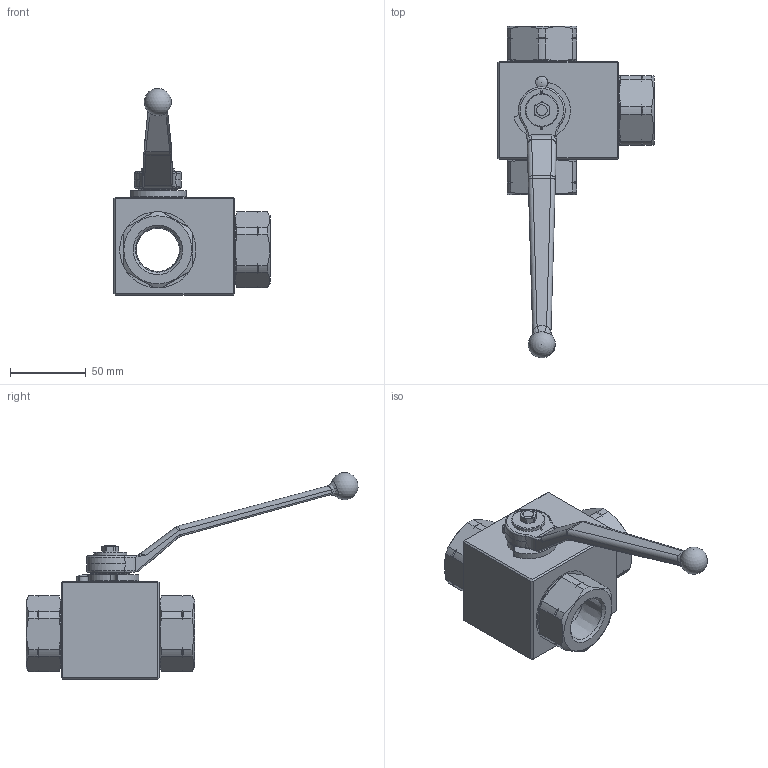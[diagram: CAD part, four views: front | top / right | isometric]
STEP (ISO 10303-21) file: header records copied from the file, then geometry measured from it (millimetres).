
FILE_DESCRIPTION( ( 'Unknown' ), '1' );
FILE_NAME( 'H:/PISTER/3D-MODELLE/BK3-Edelstahl stp/BK3-Edelst DN25 1 NPT.stp', 'Unknown', ( 'Unknown' ), ( 'Unknown' ), 'PSStep 14.0', 'Unknown', ' ' );
FILE_SCHEMA( ( 'AUTOMOTIVE_DESIGN { 1 0 10303 214 1 1 1 1 }' ) );
Length unit declared in the file: millimetre
Products named in the file (12): Assem1; 58-28740-10-oa0; 10-025-001-oa2; 56-032-125-oa6; 09-14-002; 04-025-044-oa7; 04-025-044-oa8; 06-025-009-oa11; 58-0440-007; 58-0933-248; Griff_SW14; 01-025-084-oa12
Assembly tree (11 placements, depth 2):
  Assem1
    58-28740-10-oa0
    10-025-001-oa2
    56-032-125-oa6
    09-14-002
    04-025-044-oa7
    04-025-044-oa8
    06-025-009-oa11
    58-0440-007
    58-0933-248
    Griff_SW14
    01-025-084-oa12
Bounding box: 103.25 x 219.68 x 136.9 mm (x, y, z)
Volume: 316768.5 mm3; surface area: 81231.1 mm2
Topology: 11 solids, 11 shells, 404 faces, 1044 edges, 662 vertices
Faces by surface type: plane 131, cylinder 121, cone 82, torus 35, bspline 32, sphere 3
Full cylindrical faces by diameter (mm): 5 x1, 6 x1, 6.6 x1, 7.98 x1, 20 x2, 20.2 x1, 22 x1, 24 x2, 25 x1, 28.501 x3, 32 x1, 39.3 x1, 41.376 x1, 41.5 x1, 43 x1, 43.3 x1, 45 x3, 46 x3, 50.5 x3
Entity records: 17710 total; most frequent: CARTESIAN_POINT 5290, ORIENTED_EDGE 1888, DIRECTION 1769, EDGE_CURVE 944, AXIS2_PLACEMENT_3D 729, VERTEX_POINT 631, EDGE_LOOP 493, FACE_OUTER_BOUND 441
